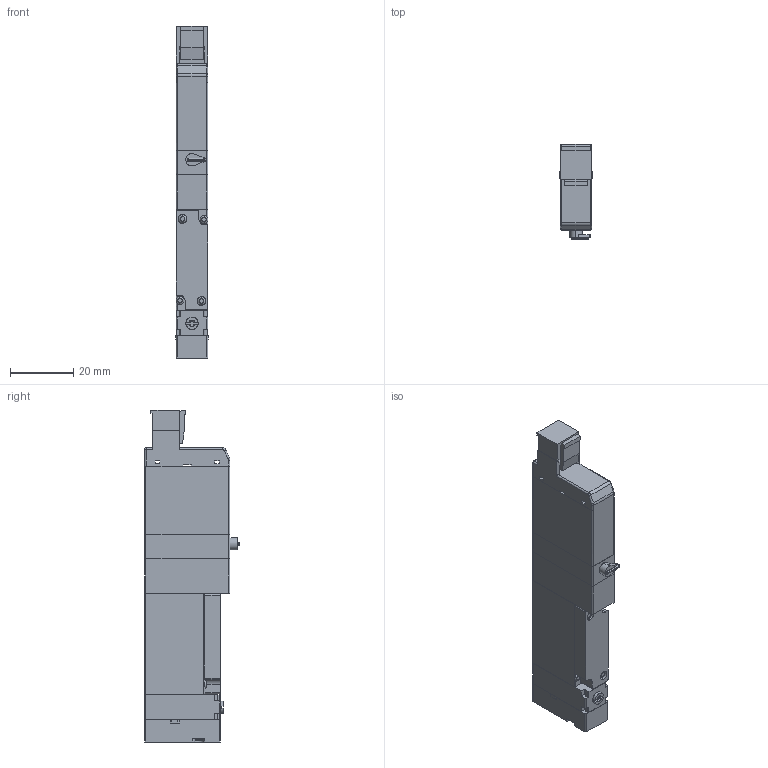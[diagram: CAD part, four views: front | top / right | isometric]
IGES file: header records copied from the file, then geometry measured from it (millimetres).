
Start section: ------------------------------------------------------------------------
Global section: file name: D:\ICADMX\tmp\trans3d_spg\CVICAD02.18204.F10T2-R-A1-PS_8775.igs; native system: spGate; preprocessor: ver12.6.6; author: Unknown; organization: Unknown; date: 200901.142529; units: millimetre
Bounding box: 10.2 x 30 x 105 mm (x, y, z)
Volume: 24297.7 mm3; surface area: 11453.3 mm2
Topology: 7 solids, 7 shells, 288 faces, 740 edges, 476 vertices
Faces by surface type: bspline 288
